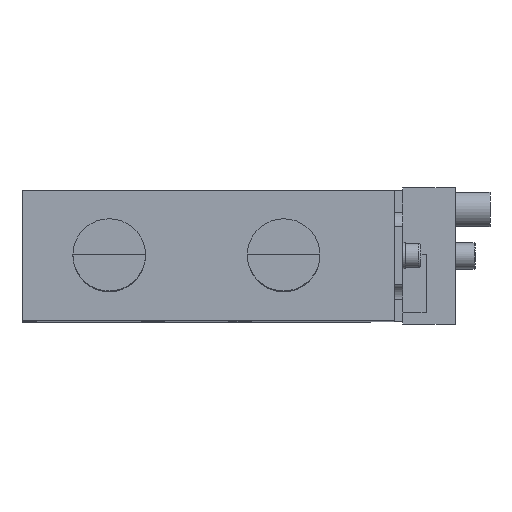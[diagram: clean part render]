
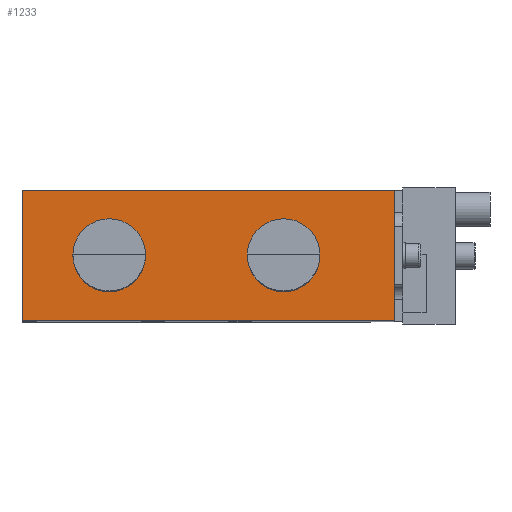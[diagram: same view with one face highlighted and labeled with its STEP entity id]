
A CAD part, top view. The second image highlights one B-rep face of the part: STEP entity #1233.
In plain terms, the highlighted planar face has unit normal (0, 0, 1).
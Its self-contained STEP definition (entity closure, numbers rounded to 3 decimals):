
#1034=CARTESIAN_POINT('Vertex',(47.5,0.,0.)) ;
#1037=CARTESIAN_POINT('Axis2P3D Location',(60.,0.,0.)) ;
#1041=CARTESIAN_POINT('Vertex',(72.5,0.,0.)) ;
#1160=CARTESIAN_POINT('Axis2P3D Location',(60.,0.,0.)) ;
#1172=CARTESIAN_POINT('Axis2P3D Location',(-30.,0.,0.)) ;
#1177=CARTESIAN_POINT('Line Origine',(-30.,0.,0.)) ;
#1181=CARTESIAN_POINT('Vertex',(-30.,-22.5,0.)) ;
#1183=CARTESIAN_POINT('Vertex',(-30.,22.5,0.)) ;
#1186=CARTESIAN_POINT('Line Origine',(34.,-22.5,0.)) ;
#1190=CARTESIAN_POINT('Vertex',(98.,-22.5,0.)) ;
#1193=CARTESIAN_POINT('Line Origine',(98.,0.,0.)) ;
#1197=CARTESIAN_POINT('Vertex',(98.,22.5,0.)) ;
#1200=CARTESIAN_POINT('Line Origine',(34.,22.5,0.)) ;
#1211=CARTESIAN_POINT('Axis2P3D Location',(0.,0.,0.)) ;
#1215=CARTESIAN_POINT('Vertex',(-12.5,0.,0.)) ;
#1217=CARTESIAN_POINT('Vertex',(12.5,0.,0.)) ;
#1220=CARTESIAN_POINT('Axis2P3D Location',(0.,0.,0.)) ;
#1038=DIRECTION('Axis2P3D Direction',(0.,0.,1.)) ;
#1161=DIRECTION('Axis2P3D Direction',(0.,0.,1.)) ;
#1173=DIRECTION('Axis2P3D Direction',(0.,0.,1.)) ;
#1174=DIRECTION('Axis2P3D XDirection',(1.,0.,0.)) ;
#1178=DIRECTION('Vector Direction',(0.,1.,0.)) ;
#1187=DIRECTION('Vector Direction',(1.,0.,0.)) ;
#1194=DIRECTION('Vector Direction',(0.,1.,0.)) ;
#1201=DIRECTION('Vector Direction',(1.,0.,0.)) ;
#1212=DIRECTION('Axis2P3D Direction',(0.,0.,1.)) ;
#1221=DIRECTION('Axis2P3D Direction',(0.,0.,1.)) ;
#1039=AXIS2_PLACEMENT_3D('Circle Axis2P3D',#1037,#1038,$) ;
#1162=AXIS2_PLACEMENT_3D('Circle Axis2P3D',#1160,#1161,$) ;
#1175=AXIS2_PLACEMENT_3D('Plane Axis2P3D',#1172,#1173,#1174) ;
#1213=AXIS2_PLACEMENT_3D('Circle Axis2P3D',#1211,#1212,$) ;
#1222=AXIS2_PLACEMENT_3D('Circle Axis2P3D',#1220,#1221,$) ;
#1206=ORIENTED_EDGE('',*,*,#1185,.F.) ;
#1207=ORIENTED_EDGE('',*,*,#1192,.T.) ;
#1208=ORIENTED_EDGE('',*,*,#1199,.T.) ;
#1209=ORIENTED_EDGE('',*,*,#1204,.F.) ;
#1226=ORIENTED_EDGE('',*,*,#1219,.F.) ;
#1227=ORIENTED_EDGE('',*,*,#1224,.F.) ;
#1230=ORIENTED_EDGE('',*,*,#1043,.F.) ;
#1231=ORIENTED_EDGE('',*,*,#1164,.F.) ;
#1228=FACE_BOUND('',#1225,.T.) ;
#1232=FACE_BOUND('',#1229,.T.) ;
#1179=VECTOR('Line Direction',#1178,1.) ;
#1188=VECTOR('Line Direction',#1187,1.) ;
#1195=VECTOR('Line Direction',#1194,1.) ;
#1202=VECTOR('Line Direction',#1201,1.) ;
#1233=ADVANCED_FACE('SZKD_63_5_BR3_60_A23_T12_TUENKERS',(#1210,#1228,#1232),#1176,.T.) ;
#1040=CIRCLE('generated circle',#1039,12.5) ;
#1163=CIRCLE('generated circle',#1162,12.5) ;
#1214=CIRCLE('generated circle',#1213,12.5) ;
#1223=CIRCLE('generated circle',#1222,12.5) ;
#1043=EDGE_CURVE('',#1035,#1042,#1040,.T.) ;
#1164=EDGE_CURVE('',#1042,#1035,#1163,.T.) ;
#1185=EDGE_CURVE('',#1182,#1184,#1180,.T.) ;
#1192=EDGE_CURVE('',#1182,#1191,#1189,.T.) ;
#1199=EDGE_CURVE('',#1191,#1198,#1196,.T.) ;
#1204=EDGE_CURVE('',#1184,#1198,#1203,.T.) ;
#1219=EDGE_CURVE('',#1216,#1218,#1214,.T.) ;
#1224=EDGE_CURVE('',#1218,#1216,#1223,.T.) ;
#1205=EDGE_LOOP('',(#1206,#1207,#1208,#1209)) ;
#1225=EDGE_LOOP('',(#1226,#1227)) ;
#1229=EDGE_LOOP('',(#1230,#1231)) ;
#1210=FACE_OUTER_BOUND('',#1205,.T.) ;
#1180=LINE('Line',#1177,#1179) ;
#1189=LINE('Line',#1186,#1188) ;
#1196=LINE('Line',#1193,#1195) ;
#1203=LINE('Line',#1200,#1202) ;
#1176=PLANE('Plane',#1175) ;
#1035=VERTEX_POINT('',#1034) ;
#1042=VERTEX_POINT('',#1041) ;
#1182=VERTEX_POINT('',#1181) ;
#1184=VERTEX_POINT('',#1183) ;
#1191=VERTEX_POINT('',#1190) ;
#1198=VERTEX_POINT('',#1197) ;
#1216=VERTEX_POINT('',#1215) ;
#1218=VERTEX_POINT('',#1217) ;
